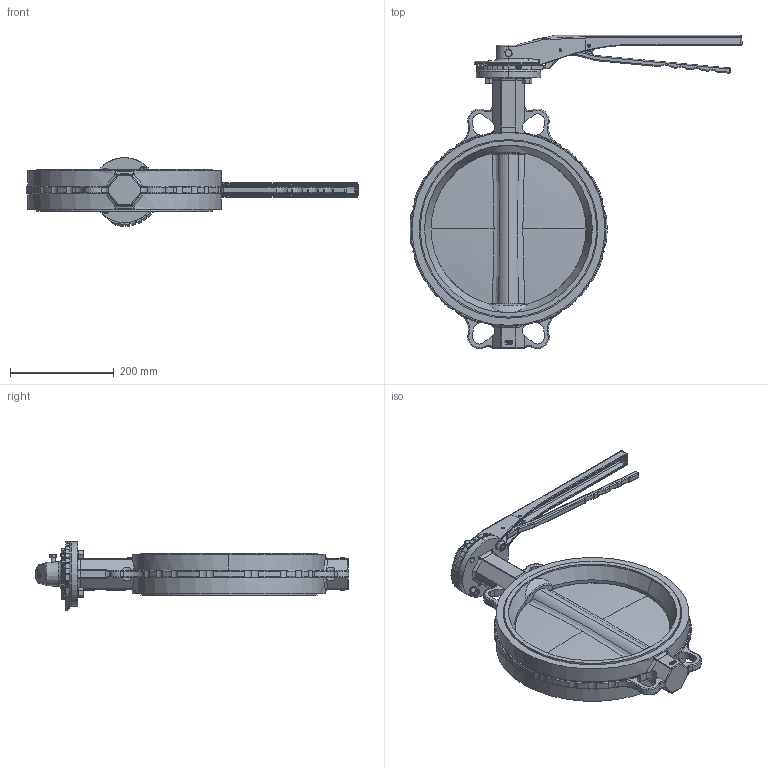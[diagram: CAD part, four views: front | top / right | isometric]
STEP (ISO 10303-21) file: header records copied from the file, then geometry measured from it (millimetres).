
FILE_DESCRIPTION (( 'STEP AP203' ), '1' );
FILE_NAME ('VPE-02 DN300.STEP', '2016-09-29T07:58:58', ( '' ), ( '' ), 'SwSTEP 2.0', 'SolidWorks 2014', '' );
FILE_SCHEMA (( 'CONFIG_CONTROL_DESIGN' ));
Products named in the file (1): VPE-02 DN300
Bounding box: 639.8 x 604.4 x 132.46 mm (x, y, z)
Volume: 4757805.7 mm3; surface area: 703982 mm2
Topology: 15 solids, 15 shells, 1673 faces, 4306 edges, 2653 vertices
Faces by surface type: cylinder 518, plane 500, bspline 431, cone 97, sphere 65, torus 62
Entity records: 73279 total; most frequent: CARTESIAN_POINT 36425, ORIENTED_EDGE 8456, DIRECTION 6681, EDGE_CURVE 4228, VERTEX_POINT 2641, AXIS2_PLACEMENT_3D 2463, EDGE_LOOP 1781, LINE 1755
